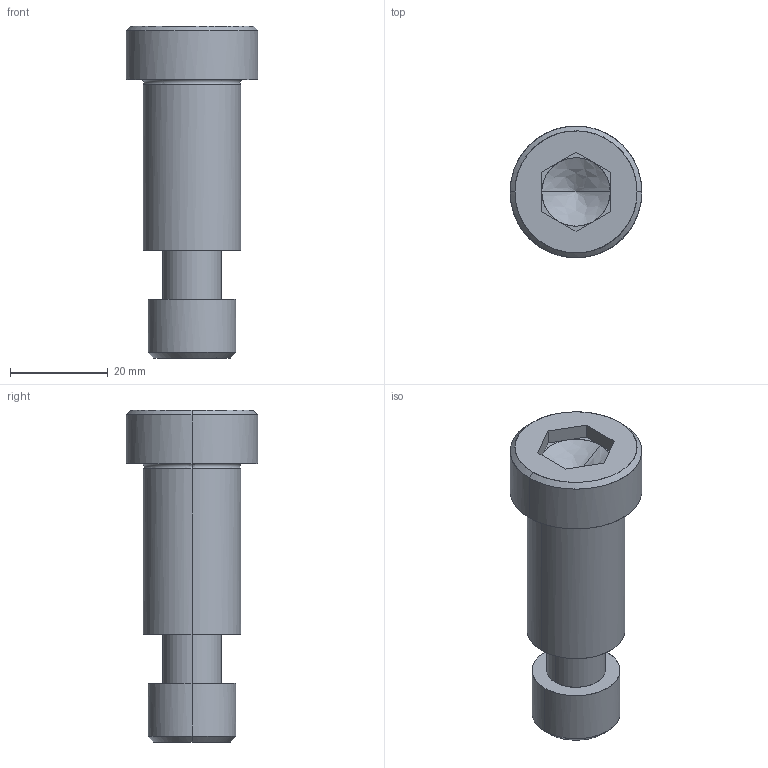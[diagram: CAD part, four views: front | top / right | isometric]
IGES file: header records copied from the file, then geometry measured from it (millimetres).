
Global section: file name: E:\UnigraphicsGraphicData\MISUMI_PRESS-PARTS\IGES\3d_sbtc20-35_05122_r00.igs; native system: NX V5.0; preprocessor: UGS NX IGES V5.0; author: MISUMI; date: 20110105.162449; units: millimetre
Bounding box: 27 x 27 x 68 mm (x, y, z)
Surface area: 7685.8 mm2 (no closed solid volume)
Topology: 0 solids, 0 shells, 52 faces, 294 edges, 290 vertices
Faces by surface type: bspline 52
